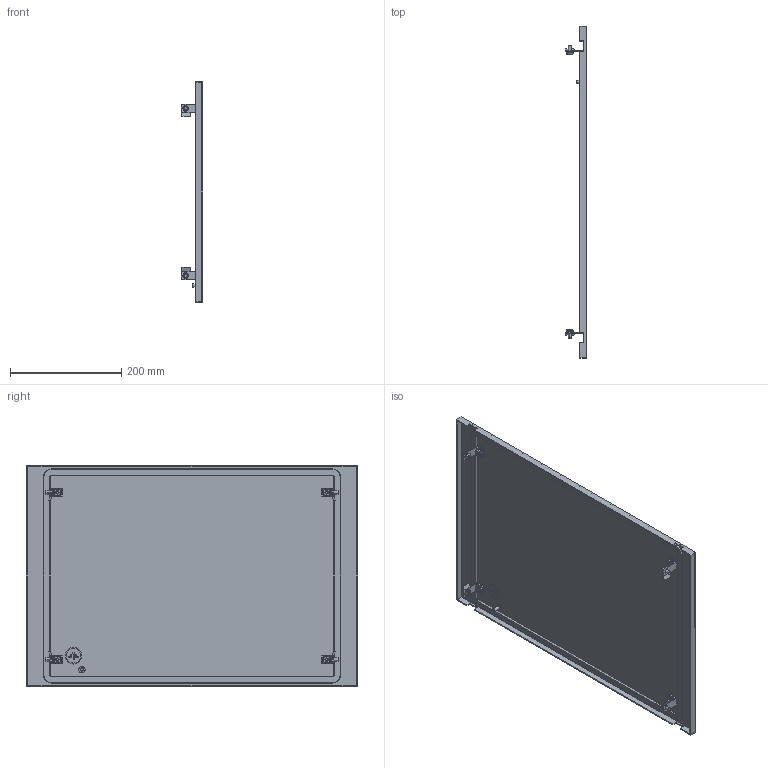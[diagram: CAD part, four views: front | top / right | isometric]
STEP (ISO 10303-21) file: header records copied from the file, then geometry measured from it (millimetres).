
FILE_DESCRIPTION (( 'STEP AP214' ), '1' );
FILE_NAME ('FO-00-PWSB-040-060 Ôàëüø-ïàíåëü âíåøíÿÿ ãëóõàÿ 400õ600 ìì.STEP', '2025-08-25T08:10:36', ( '' ), ( '' ), 'SwSTEP 2.0', 'SolidWorks 2023', '' );
FILE_SCHEMA (( 'AUTOMOTIVE_DESIGN' ));
Length unit declared in the file: millimetre
Products named in the file (1): FO-00-PWSB-040-060 Фальш-панель внешняя глухая 400х600 мм
Bounding box: 38.5 x 595 x 396 mm (x, y, z)
Volume: 586236.6 mm3; surface area: 538711.6 mm2
Topology: 1 solids, 10 shells, 846 faces, 2093 edges, 1287 vertices
Faces by surface type: plane 530, cylinder 202, cone 90, torus 24
Entity records: 25296 total; most frequent: CARTESIAN_POINT 4873, DIRECTION 4361, ORIENTED_EDGE 4182, EDGE_CURVE 2091, AXIS2_PLACEMENT_3D 1487, LINE 1387, VECTOR 1387, VERTEX_POINT 1287
